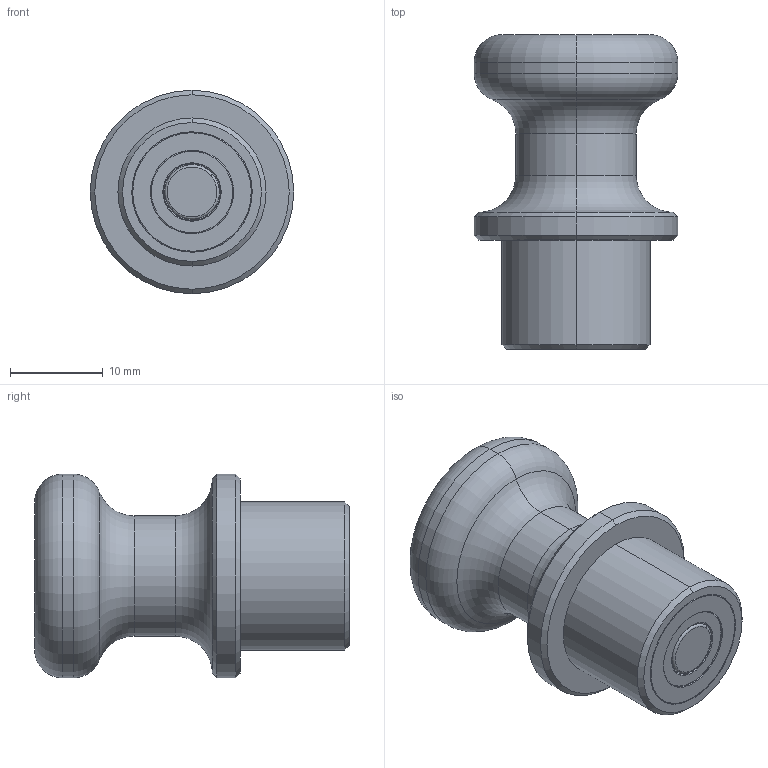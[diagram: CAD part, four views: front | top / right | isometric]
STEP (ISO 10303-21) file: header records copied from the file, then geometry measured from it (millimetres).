
FILE_DESCRIPTION (( 'STEP AP203' ), '1' );
FILE_NAME ('160740.step', '2014-08-11T16:34:37', ( 'User' ), ( '' ), 'SwSTEP 2.0', 'SolidWorks 2014', '' );
FILE_SCHEMA (( 'CONFIG_CONTROL_DESIGN' ));
Length unit declared in the file: millimetre
Products named in the file (3): Magnet^160740_Produktbild; 160740; 160740 Magnetbolzen_Detailliert
Assembly tree (2 placements, depth 2):
  160740
    160740 Magnetbolzen_Detailliert
    Magnet^160740_Produktbild
Bounding box: 22 x 34 x 22 mm (x, y, z)
Volume: 7710 mm3; surface area: 3638.9 mm2
Topology: 4 solids, 4 shells, 57 faces, 108 edges, 62 vertices
Faces by surface type: cylinder 20, torus 20, plane 11, cone 6
Entity records: 1749 total; most frequent: DIRECTION 314, CARTESIAN_POINT 232, ORIENTED_EDGE 216, AXIS2_PLACEMENT_3D 144, EDGE_CURVE 108, CIRCLE 82, VERTEX_POINT 62, EDGE_LOOP 62
